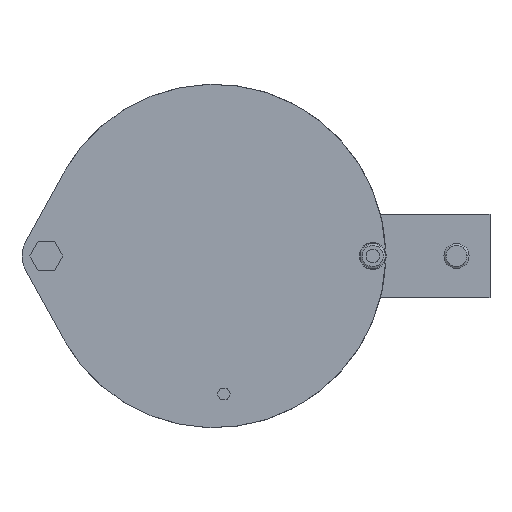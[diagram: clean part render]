
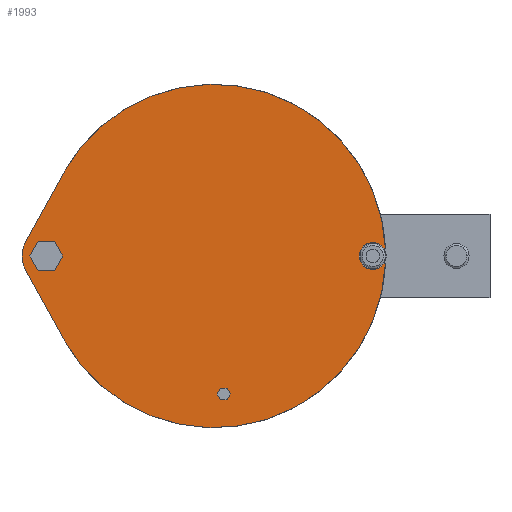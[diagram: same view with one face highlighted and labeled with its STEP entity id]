
A CAD part, left-side view. The second image highlights one B-rep face of the part: STEP entity #1993.
In plain terms, the highlighted planar face has unit normal (-1, 0, 0).
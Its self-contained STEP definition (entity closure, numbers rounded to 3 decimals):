
#166=CARTESIAN_POINT('',(-3.,0.,0.));
#167=DIRECTION('',(-1.,0.,0.));
#168=DIRECTION('',(0.,0.876,-0.483));
#169=AXIS2_PLACEMENT_3D('',#166,#167,#168);
#204=DIRECTION('',(0.,0.5,0.866));
#205=VECTOR('',#204,9.8);
#206=CARTESIAN_POINT('',(-3.,90.2,0.));
#207=LINE('',#206,#205);
#211=DIRECTION('',(0.,1.,0.));
#212=VECTOR('',#211,9.8);
#213=CARTESIAN_POINT('',(-3.,95.1,8.487));
#214=LINE('',#213,#212);
#218=DIRECTION('',(0.,0.5,-0.866));
#219=VECTOR('',#218,9.8);
#220=CARTESIAN_POINT('',(-3.,104.9,8.487));
#221=LINE('',#220,#219);
#225=DIRECTION('',(0.,-0.5,-0.866));
#226=VECTOR('',#225,9.8);
#227=CARTESIAN_POINT('',(-3.,109.8,0.));
#228=LINE('',#227,#226);
#232=DIRECTION('',(0.,-1.,0.));
#233=VECTOR('',#232,9.8);
#234=CARTESIAN_POINT('',(-3.,104.9,-8.487));
#235=LINE('',#234,#233);
#239=DIRECTION('',(0.,-0.5,0.866));
#240=VECTOR('',#239,9.8);
#241=CARTESIAN_POINT('',(-3.,95.1,-8.487));
#242=LINE('',#241,#240);
#246=DIRECTION('',(0.,0.5,0.866));
#247=VECTOR('',#246,4.);
#248=CARTESIAN_POINT('',(-3.,-9.96,-82.29));
#249=LINE('',#248,#247);
#253=DIRECTION('',(0.,1.,0.));
#254=VECTOR('',#253,4.);
#255=CARTESIAN_POINT('',(-3.,-7.96,-78.826));
#256=LINE('',#255,#254);
#260=DIRECTION('',(0.,0.5,-0.866));
#261=VECTOR('',#260,4.);
#262=CARTESIAN_POINT('',(-3.,-3.96,-78.826));
#263=LINE('',#262,#261);
#267=DIRECTION('',(0.,-0.5,-0.866));
#268=VECTOR('',#267,4.);
#269=CARTESIAN_POINT('',(-3.,-1.96,-82.29));
#270=LINE('',#269,#268);
#274=DIRECTION('',(0.,-1.,0.));
#275=VECTOR('',#274,4.);
#276=CARTESIAN_POINT('',(-3.,-3.96,-85.754));
#277=LINE('',#276,#275);
#281=DIRECTION('',(0.,-0.5,0.866));
#282=VECTOR('',#281,4.);
#283=CARTESIAN_POINT('',(-3.,-7.96,-85.754));
#284=LINE('',#283,#282);
#288=CARTESIAN_POINT('',(-3.,-94.841,0.));
#289=DIRECTION('',(-1.,0.,0.));
#290=DIRECTION('',(0.,1.,0.));
#291=AXIS2_PLACEMENT_3D('',#288,#289,#290);
#296=DIRECTION('',(0.,1.,0.));
#297=VECTOR('',#296,0.793);
#298=CARTESIAN_POINT('',(-3.,-102.412,-4.25));
#299=LINE('',#298,#297);
#303=DIRECTION('',(0.,-0.483,-0.876));
#304=VECTOR('',#303,46.604);
#305=CARTESIAN_POINT('',(-3.,112.261,-8.693));
#306=LINE('',#305,#304);
#310=CARTESIAN_POINT('',(-3.,96.5,0.));
#311=DIRECTION('',(-1.,0.,0.));
#312=DIRECTION('',(0.,0.876,0.483));
#313=AXIS2_PLACEMENT_3D('',#310,#311,#312);
#318=DIRECTION('',(0.,0.483,-0.876));
#319=VECTOR('',#318,46.604);
#320=CARTESIAN_POINT('',(-3.,89.754,49.502));
#321=LINE('',#320,#319);
#325=CARTESIAN_POINT('',(-3.,0.,0.));
#326=DIRECTION('',(-1.,0.,0.));
#327=DIRECTION('',(0.,-0.999,0.041));
#328=AXIS2_PLACEMENT_3D('',#325,#326,#327);
#333=DIRECTION('',(0.,-1.,0.));
#334=VECTOR('',#333,0.793);
#335=CARTESIAN_POINT('',(-3.,-101.619,4.25));
#336=LINE('',#335,#334);
#340=CARTESIAN_POINT('',(-3.,-94.841,0.));
#341=DIRECTION('',(-1.,0.,0.));
#342=DIRECTION('',(0.,-0.847,0.531));
#343=AXIS2_PLACEMENT_3D('',#340,#341,#342);
#1529=CARTESIAN_POINT('',(-3.,89.754,49.502));
#1530=CARTESIAN_POINT('',(-3.,112.261,8.693));
#1531=VERTEX_POINT('',#1529);
#1532=VERTEX_POINT('',#1530);
#1533=CARTESIAN_POINT('',(-3.,112.261,-8.693));
#1534=VERTEX_POINT('',#1533);
#1535=CARTESIAN_POINT('',(-3.,89.754,-49.502));
#1536=VERTEX_POINT('',#1535);
#1537=CARTESIAN_POINT('',(-3.,-102.412,4.25));
#1538=VERTEX_POINT('',#1537);
#1551=CARTESIAN_POINT('',(-3.,90.2,0.));
#1552=CARTESIAN_POINT('',(-3.,95.1,8.487));
#1553=VERTEX_POINT('',#1551);
#1554=VERTEX_POINT('',#1552);
#1555=CARTESIAN_POINT('',(-3.,104.9,8.487));
#1556=VERTEX_POINT('',#1555);
#1557=CARTESIAN_POINT('',(-3.,109.8,0.));
#1558=VERTEX_POINT('',#1557);
#1559=CARTESIAN_POINT('',(-3.,104.9,-8.487));
#1560=VERTEX_POINT('',#1559);
#1561=CARTESIAN_POINT('',(-3.,95.1,-8.487));
#1562=VERTEX_POINT('',#1561);
#1575=CARTESIAN_POINT('',(-3.,-9.96,-82.29));
#1576=CARTESIAN_POINT('',(-3.,-7.96,-78.826));
#1577=VERTEX_POINT('',#1575);
#1578=VERTEX_POINT('',#1576);
#1579=CARTESIAN_POINT('',(-3.,-3.96,-78.826));
#1580=VERTEX_POINT('',#1579);
#1581=CARTESIAN_POINT('',(-3.,-1.96,-82.29));
#1582=VERTEX_POINT('',#1581);
#1583=CARTESIAN_POINT('',(-3.,-3.96,-85.754));
#1584=VERTEX_POINT('',#1583);
#1585=CARTESIAN_POINT('',(-3.,-7.96,-85.754));
#1586=VERTEX_POINT('',#1585);
#1701=CARTESIAN_POINT('',(-3.,-102.412,-4.25));
#1702=VERTEX_POINT('',#1701);
#1773=CARTESIAN_POINT('',(-3.,-86.841,0.));
#1774=CARTESIAN_POINT('',(-3.,-101.619,-4.25));
#1775=VERTEX_POINT('',#1773);
#1776=VERTEX_POINT('',#1774);
#1777=CARTESIAN_POINT('',(-3.,-101.619,4.25));
#1778=VERTEX_POINT('',#1777);
#1941=CARTESIAN_POINT('',(-3.,0.,0.));
#1942=DIRECTION('',(-1.,0.,0.));
#1943=DIRECTION('',(0.,0.,1.));
#1944=AXIS2_PLACEMENT_3D('',#1941,#1942,#1943);
#1945=PLANE('',#1944);
#1947=ORIENTED_EDGE('',*,*,#1946,.T.);
#1949=ORIENTED_EDGE('',*,*,#1948,.F.);
#1950=ORIENTED_EDGE('',*,*,#1928,.F.);
#1952=ORIENTED_EDGE('',*,*,#1951,.F.);
#1954=ORIENTED_EDGE('',*,*,#1953,.F.);
#1956=ORIENTED_EDGE('',*,*,#1955,.F.);
#1958=ORIENTED_EDGE('',*,*,#1957,.F.);
#1960=ORIENTED_EDGE('',*,*,#1959,.F.);
#1962=ORIENTED_EDGE('',*,*,#1961,.T.);
#1963=EDGE_LOOP('',(#1947,#1949,#1950,#1952,#1954,#1956,#1958,#1960,#1962));
#1964=FACE_OUTER_BOUND('',#1963,.F.);
#1966=ORIENTED_EDGE('',*,*,#1965,.T.);
#1968=ORIENTED_EDGE('',*,*,#1967,.T.);
#1970=ORIENTED_EDGE('',*,*,#1969,.T.);
#1972=ORIENTED_EDGE('',*,*,#1971,.T.);
#1974=ORIENTED_EDGE('',*,*,#1973,.T.);
#1976=ORIENTED_EDGE('',*,*,#1975,.T.);
#1977=EDGE_LOOP('',(#1966,#1968,#1970,#1972,#1974,#1976));
#1978=FACE_BOUND('',#1977,.F.);
#1980=ORIENTED_EDGE('',*,*,#1979,.T.);
#1982=ORIENTED_EDGE('',*,*,#1981,.T.);
#1984=ORIENTED_EDGE('',*,*,#1983,.T.);
#1986=ORIENTED_EDGE('',*,*,#1985,.T.);
#1988=ORIENTED_EDGE('',*,*,#1987,.T.);
#1990=ORIENTED_EDGE('',*,*,#1989,.T.);
#1991=EDGE_LOOP('',(#1980,#1982,#1984,#1986,#1988,#1990));
#1992=FACE_BOUND('',#1991,.F.);
#170=CIRCLE('',#169,102.5);
#292=CIRCLE('',#291,8.);
#314=CIRCLE('',#313,18.);
#329=CIRCLE('',#328,102.5);
#344=CIRCLE('',#343,8.);
#1928=EDGE_CURVE('',#1536,#1702,#170,.T.);
#1946=EDGE_CURVE('',#1775,#1776,#292,.T.);
#1948=EDGE_CURVE('',#1702,#1776,#299,.T.);
#1951=EDGE_CURVE('',#1534,#1536,#306,.T.);
#1953=EDGE_CURVE('',#1532,#1534,#314,.T.);
#1955=EDGE_CURVE('',#1531,#1532,#321,.T.);
#1957=EDGE_CURVE('',#1538,#1531,#329,.T.);
#1959=EDGE_CURVE('',#1778,#1538,#336,.T.);
#1961=EDGE_CURVE('',#1778,#1775,#344,.T.);
#1965=EDGE_CURVE('',#1577,#1578,#249,.T.);
#1967=EDGE_CURVE('',#1578,#1580,#256,.T.);
#1969=EDGE_CURVE('',#1580,#1582,#263,.T.);
#1971=EDGE_CURVE('',#1582,#1584,#270,.T.);
#1973=EDGE_CURVE('',#1584,#1586,#277,.T.);
#1975=EDGE_CURVE('',#1586,#1577,#284,.T.);
#1979=EDGE_CURVE('',#1553,#1554,#207,.T.);
#1981=EDGE_CURVE('',#1554,#1556,#214,.T.);
#1983=EDGE_CURVE('',#1556,#1558,#221,.T.);
#1985=EDGE_CURVE('',#1558,#1560,#228,.T.);
#1987=EDGE_CURVE('',#1560,#1562,#235,.T.);
#1989=EDGE_CURVE('',#1562,#1553,#242,.T.);
#1993=ADVANCED_FACE('',(#1964,#1978,#1992),#1945,.T.);
